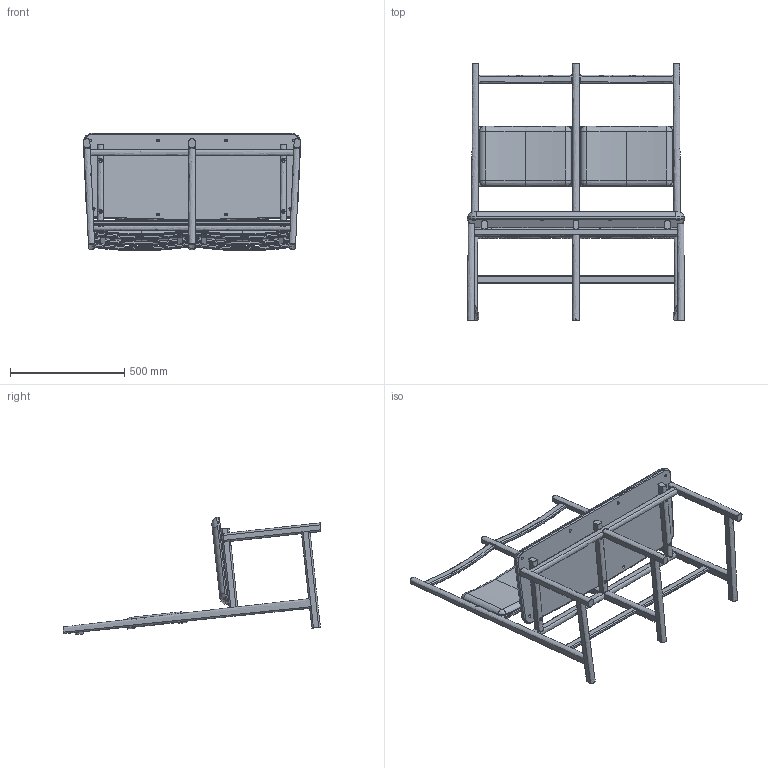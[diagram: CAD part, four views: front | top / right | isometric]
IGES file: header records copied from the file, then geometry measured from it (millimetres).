
Start section: SolidWorks IGES file using analytic representation for surfaces
Global section: file name: C:\Users\Kuma\Desktop\igs\763SB Shaker Bench with Upholstered Seat_va_2016-04-08.IGS; native system: SolidWorks 2016; preprocessor: SolidWorks 2016; author: kuma; date: 160408.125933; units: millimetre
Bounding box: 951.16 x 1127.76 x 514.62 mm (x, y, z)
Surface area: 2748983.9 mm2 (no closed solid volume)
Topology: 0 solids, 0 shells, 431 faces, 6688 edges, 6688 vertices
Faces by surface type: bspline 315, revolution 116
